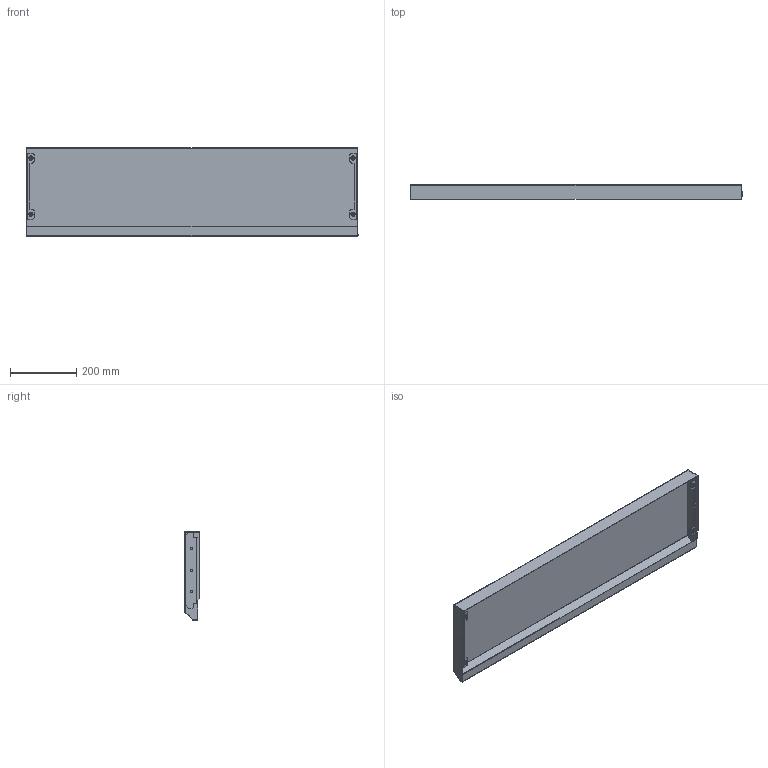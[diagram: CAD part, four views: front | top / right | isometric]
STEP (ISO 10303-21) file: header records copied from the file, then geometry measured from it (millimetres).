
FILE_DESCRIPTION (( 'STEP AP214' ), '1' );
FILE_NAME ('RKC 100.25 ﾊ鰀靍裲 鈞隆.STEP', '2023-07-29T07:52:35', ( '' ), ( '' ), 'SwSTEP 2.0', 'SolidWorks 2019', '' );
FILE_SCHEMA (( 'AUTOMOTIVE_DESIGN' ));
Length unit declared in the file: millimetre
Products named in the file (4): RKC 100.25 ﾊ鰀靍裲 鈞隆; RKC Y.Z 01.001 扻踑謥獥RKC 100.25; Ãàéêà-çàêë¸ïêà Ì6; RKC Z 01.002 扰鍙欙樥燲RKC 25
Assembly tree (7 placements, depth 2):
  RKC 100.25 ﾊ鰀靍裲 鈞隆
    RKC Y.Z 01.001 扻踑謥獥RKC 100.25
    RKC Z 01.002 扰鍙欙樥燲RKC 25  x2
    Ãàéêà-çàêë¸ïêà Ì6  x4
Bounding box: 1005 x 45 x 268 mm (x, y, z)
Volume: 569983.4 mm3; surface area: 820725.8 mm2
Topology: 7 solids, 7 shells, 418 faces, 1040 edges, 652 vertices
Faces by surface type: cylinder 214, plane 134, torus 40, bspline 30
Entity records: 8193 total; most frequent: CARTESIAN_POINT 2971, ORIENTED_EDGE 1100, DIRECTION 1014, EDGE_CURVE 550, AXIS2_PLACEMENT_3D 370, VERTEX_POINT 343, LINE 274, VECTOR 274
